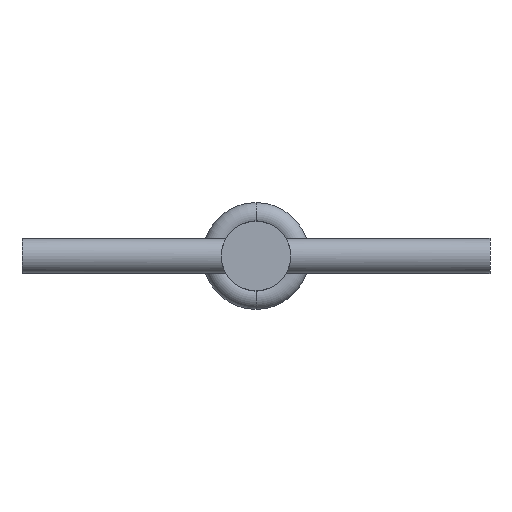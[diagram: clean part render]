
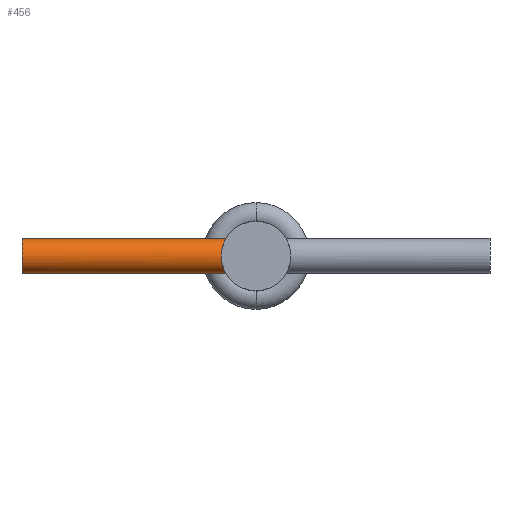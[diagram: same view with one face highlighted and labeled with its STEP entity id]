
A CAD part, left-side view. The second image highlights one B-rep face of the part: STEP entity #456.
In plain terms, the highlighted cylindrical face has radius 1.5 mm (diameter 3 mm), a partial arc.
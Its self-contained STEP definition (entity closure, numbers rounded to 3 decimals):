
#27 = CARTESIAN_POINT ( 'NONE',  ( 2.807, 2.947, -0.399 ) ) ;
#34 = CARTESIAN_POINT ( 'NONE',  ( 3.776, 2.607, 1.421 ) ) ;
#35 = CARTESIAN_POINT ( 'NONE',  ( 4.067, 2.562, -1.5 ) ) ;
#39 = CYLINDRICAL_SURFACE ( 'NONE', #321, 1.5 ) ;
#43 = ORIENTED_EDGE ( 'NONE', *, *, #249, .F. ) ;
#48 = EDGE_CURVE ( 'NONE', #522, #697, #53, .T. ) ;
#51 = CIRCLE ( 'NONE', #553, 1.5 ) ;
#53 = LINE ( 'NONE', #373, #417 ) ;
#79 = CARTESIAN_POINT ( 'NONE',  ( 4.266, 20., 1.5 ) ) ;
#97 = CARTESIAN_POINT ( 'NONE',  ( 2.816, 2.944, 0.394 ) ) ;
#108 = CARTESIAN_POINT ( 'NONE',  ( 4.165, 2.562, 1.5 ) ) ;
#121 = CARTESIAN_POINT ( 'NONE',  ( 2.96, 2.875, -0.763 ) ) ;
#153 = CARTESIAN_POINT ( 'NONE',  ( 4.266, 20., -1.5 ) ) ;
#162 = CARTESIAN_POINT ( 'NONE',  ( 3.867, 2.587, -1.459 ) ) ;
#181 = CARTESIAN_POINT ( 'NONE',  ( 4.266, 2.562, 1.5 ) ) ;
#207 = VERTEX_POINT ( 'NONE', #483 ) ;
#212 = EDGE_CURVE ( 'NONE', #522, #207, #521, .T. ) ;
#220 = ORIENTED_EDGE ( 'NONE', *, *, #48, .T. ) ;
#244 = CARTESIAN_POINT ( 'NONE',  ( 2.845, 2.929, 0.491 ) ) ;
#247 = CARTESIAN_POINT ( 'NONE',  ( 4.266, 2.562, -1.5 ) ) ;
#249 = EDGE_CURVE ( 'NONE', #567, #697, #51, .T. ) ;
#253 = ORIENTED_EDGE ( 'NONE', *, *, #212, .F. ) ;
#262 = CARTESIAN_POINT ( 'NONE',  ( 3.505, 2.666, 1.308 ) ) ;
#269 = CARTESIAN_POINT ( 'NONE',  ( 3.342, 2.72, 1.197 ) ) ;
#318 = CARTESIAN_POINT ( 'NONE',  ( 3.872, 2.59, 1.451 ) ) ;
#321 = AXIS2_PLACEMENT_3D ( 'NONE', #662, #578, #537 ) ;
#322 = DIRECTION ( 'NONE',  ( 0., 1., 0. ) ) ;
#373 = CARTESIAN_POINT ( 'NONE',  ( 4.266, -20., 1.5 ) ) ;
#385 = EDGE_CURVE ( 'NONE', #207, #567, #598, .T. ) ;
#386 = CARTESIAN_POINT ( 'NONE',  ( 3.508, 2.666, -1.309 ) ) ;
#408 = CARTESIAN_POINT ( 'NONE',  ( 4.266, -20., -1.5 ) ) ;
#417 = VECTOR ( 'NONE', #322, 1000. ) ;
#428 = DIRECTION ( 'NONE',  ( 0., 1., 0. ) ) ;
#445 = DIRECTION ( 'NONE',  ( 0., 0., 1. ) ) ;
#456 = ADVANCED_FACE ( 'NONE', ( #829 ), #39, .T. ) ;
#474 = VECTOR ( 'NONE', #428, 1000. ) ;
#480 = CARTESIAN_POINT ( 'NONE',  ( 2.959, 2.875, 0.761 ) ) ;
#483 = CARTESIAN_POINT ( 'NONE',  ( 4.266, 2.562, -1.5 ) ) ;
#521 = B_SPLINE_CURVE_WITH_KNOTS ( 'NONE', 3,
 ( #181, #108, #810, #318, #34, #262, #269, #626, #480, #244, #97, #683, #804, #801, #27, #121, #793, #702, #386, #162, #35, #247 ),
 .UNSPECIFIED., .F., .F.,
 ( 4, 2, 2, 2, 2, 2, 2, 2, 2, 2, 4 ),
 ( 0., 0., 0.001, 0.001, 0.002, 0.002, 0.002, 0.003, 0.004, 0.004, 0.005 ),
 .UNSPECIFIED. ) ;
#522 = VERTEX_POINT ( 'NONE', #653 ) ;
#528 = EDGE_LOOP ( 'NONE', ( #725, #253, #220, #43 ) ) ;
#537 = DIRECTION ( 'NONE',  ( 0., 0., 1. ) ) ;
#553 = AXIS2_PLACEMENT_3D ( 'NONE', #752, #672, #445 ) ;
#567 = VERTEX_POINT ( 'NONE', #153 ) ;
#578 = DIRECTION ( 'NONE',  ( 0., 1., 0. ) ) ;
#598 = LINE ( 'NONE', #408, #474 ) ;
#626 = CARTESIAN_POINT ( 'NONE',  ( 3.07, 2.824, 0.925 ) ) ;
#653 = CARTESIAN_POINT ( 'NONE',  ( 4.266, 2.562, 1.5 ) ) ;
#662 = CARTESIAN_POINT ( 'NONE',  ( 4.266, -20., 0. ) ) ;
#672 = DIRECTION ( 'NONE',  ( 0., 1., 0. ) ) ;
#683 = CARTESIAN_POINT ( 'NONE',  ( 2.776, 2.963, 0.2 ) ) ;
#697 = VERTEX_POINT ( 'NONE', #79 ) ;
#702 = CARTESIAN_POINT ( 'NONE',  ( 3.344, 2.72, -1.198 ) ) ;
#725 = ORIENTED_EDGE ( 'NONE', *, *, #385, .F. ) ;
#752 = CARTESIAN_POINT ( 'NONE',  ( 4.266, 20., 0. ) ) ;
#793 = CARTESIAN_POINT ( 'NONE',  ( 3.071, 2.824, -0.927 ) ) ;
#801 = CARTESIAN_POINT ( 'NONE',  ( 2.766, 2.969, -0.199 ) ) ;
#804 = CARTESIAN_POINT ( 'NONE',  ( 2.766, 2.968, 0.101 ) ) ;
#810 = CARTESIAN_POINT ( 'NONE',  ( 4.066, 2.568, 1.49 ) ) ;
#829 = FACE_OUTER_BOUND ( 'NONE', #528, .T. ) ;
